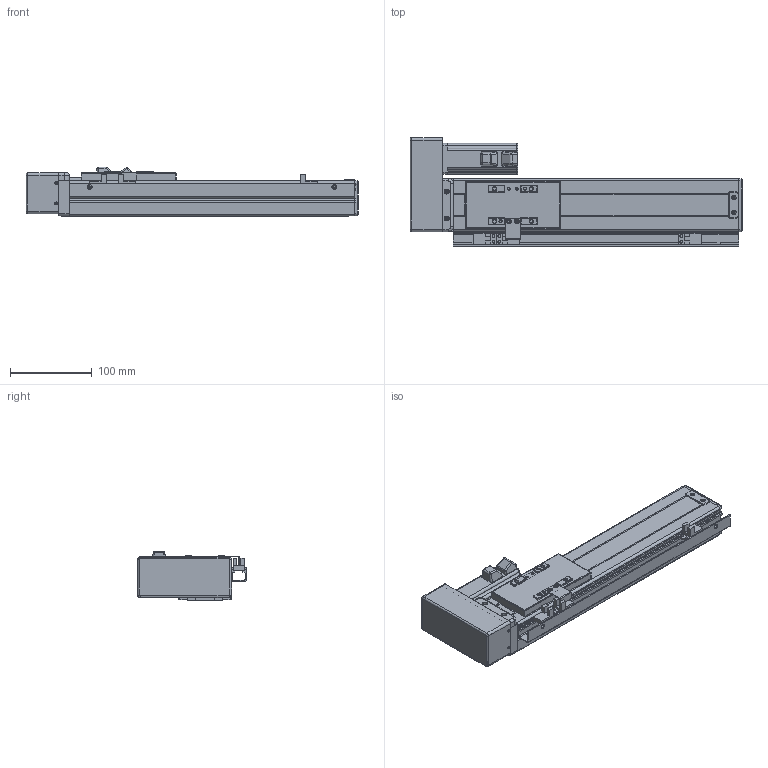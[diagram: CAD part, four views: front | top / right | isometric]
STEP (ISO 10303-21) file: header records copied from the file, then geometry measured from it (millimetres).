
FILE_DESCRIPTION (( 'STEP AP203' ), '1' );
FILE_NAME ('VT6-L10-C-S200-BR-P10-D4.STEP', '2015-10-26T06:15:31', ( '' ), ( '' ), 'SwSTEP 2.0', 'SolidWorks 2013', '' );
FILE_SCHEMA (( 'CONFIG_CONTROL_DESIGN' ));
Length unit declared in the file: millimetre
Products named in the file (17): T6-BMRLヶ傷裔揤啣; 侂狟100W MSMD012G1U; T6-BRL萇儂假蚾啣; T6-BMRL肮祭湍謫欶; VT6-L10-C-S200-BR-P10-D4; T6-綴傷裔; T6-揤輸; T6-裔啣; T6-賑雄殤; ET6-BC耜啣_200; ET6-BLRM絳寢_俴最200; ET6-BLRM滅鳥湍_200; ET6-BLRM佪裝_200; T6-覜茼え; EE-XS674; T6-BMLRヶ傷裔; ET6-BC癹弇羲壽羞_200
Assembly tree (19 placements, depth 2):
  VT6-L10-C-S200-BR-P10-D4
    ET6-BC耜啣_200  x2
    T6-賑雄殤
    T6-裔啣
    T6-揤輸
    T6-綴傷裔
    ET6-BLRM絳寢_俴最200
    ET6-BLRM滅鳥湍_200
    ET6-BLRM佪裝_200
    T6-BMLRヶ傷裔
    T6-BMRLヶ傷裔揤啣
    T6-BMRL肮祭湍謫欶
    侂狟100W MSMD012G1U
    T6-BRL萇儂假蚾啣
    T6-覜茼え
    ET6-BC癹弇羲壽羞_200
    EE-XS674  x3
Bounding box: 407 x 133 x 61 mm (x, y, z)
Volume: 608222 mm3; surface area: 355581.3 mm2
Topology: 19 solids, 19 shells, 877 faces, 2316 edges, 1464 vertices
Faces by surface type: cylinder 403, plane 374, cone 46, torus 36, sphere 18
Entity records: 26953 total; most frequent: CARTESIAN_POINT 4537, DIRECTION 4490, ORIENTED_EDGE 4150, EDGE_CURVE 2075, AXIS2_PLACEMENT_3D 1637, VERTEX_POINT 1324, LINE 1216, VECTOR 1216
